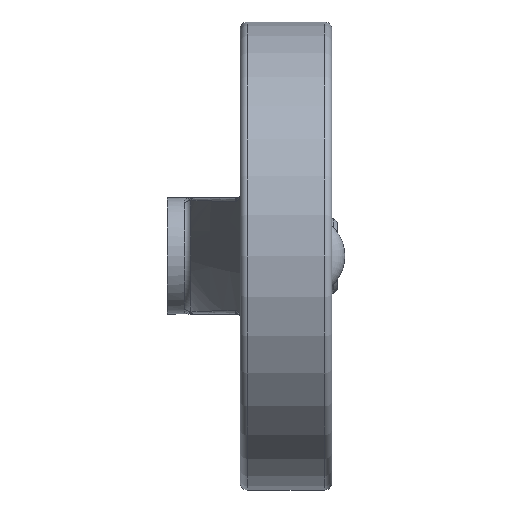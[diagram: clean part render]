
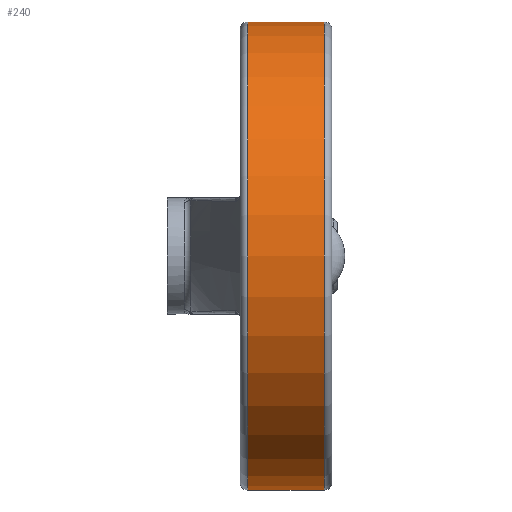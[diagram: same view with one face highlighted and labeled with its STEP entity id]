
A CAD part, front view. The second image highlights one B-rep face of the part: STEP entity #240.
In plain terms, the highlighted cylindrical face has radius 62.5 mm (diameter 125 mm), a full revolution.
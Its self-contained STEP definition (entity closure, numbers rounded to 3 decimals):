
#240 = ADVANCED_FACE ( 'NONE', ( #4221, #404 ), #5045, .T. ) ;
#404 = FACE_OUTER_BOUND ( 'NONE', #3371, .T. ) ;
#612 = VERTEX_POINT ( 'NONE', #4283 ) ;
#736 = DIRECTION ( 'NONE',  ( 0., 0., 1. ) ) ;
#776 = EDGE_LOOP ( 'NONE', ( #5006 ) ) ;
#1249 = DIRECTION ( 'NONE',  ( 0., 0., -1. ) ) ;
#1272 = CARTESIAN_POINT ( 'NONE',  ( 42.5, 0., 0. ) ) ;
#2173 = CARTESIAN_POINT ( 'NONE',  ( 42.5, 0., -62.5 ) ) ;
#2203 = CIRCLE ( 'NONE', #5322, 62.5 ) ;
#2268 = DIRECTION ( 'NONE',  ( 1., 0., 0. ) ) ;
#2461 = ORIENTED_EDGE ( 'NONE', *, *, #5437, .T. ) ;
#2484 = DIRECTION ( 'NONE',  ( -1., 0., 0. ) ) ;
#2599 = VERTEX_POINT ( 'NONE', #2173 ) ;
#2745 = DIRECTION ( 'NONE',  ( 0., 0., 1. ) ) ;
#2950 = EDGE_CURVE ( 'NONE', #612, #612, #2203, .T. ) ;
#3017 = AXIS2_PLACEMENT_3D ( 'NONE', #1272, #5083, #1249 ) ;
#3371 = EDGE_LOOP ( 'NONE', ( #2461 ) ) ;
#3470 = AXIS2_PLACEMENT_3D ( 'NONE', #5440, #2484, #736 ) ;
#3549 = CARTESIAN_POINT ( 'NONE',  ( 22., 0., 0. ) ) ;
#4221 = FACE_OUTER_BOUND ( 'NONE', #776, .T. ) ;
#4283 = CARTESIAN_POINT ( 'NONE',  ( 22., 0., 62.5 ) ) ;
#4337 = CIRCLE ( 'NONE', #3017, 62.5 ) ;
#5006 = ORIENTED_EDGE ( 'NONE', *, *, #2950, .T. ) ;
#5045 = CYLINDRICAL_SURFACE ( 'NONE', #3470, 62.5 ) ;
#5083 = DIRECTION ( 'NONE',  ( -1., 0., 0. ) ) ;
#5322 = AXIS2_PLACEMENT_3D ( 'NONE', #3549, #2268, #2745 ) ;
#5437 = EDGE_CURVE ( 'NONE', #2599, #2599, #4337, .T. ) ;
#5440 = CARTESIAN_POINT ( 'NONE',  ( 0., 0., 0. ) ) ;
